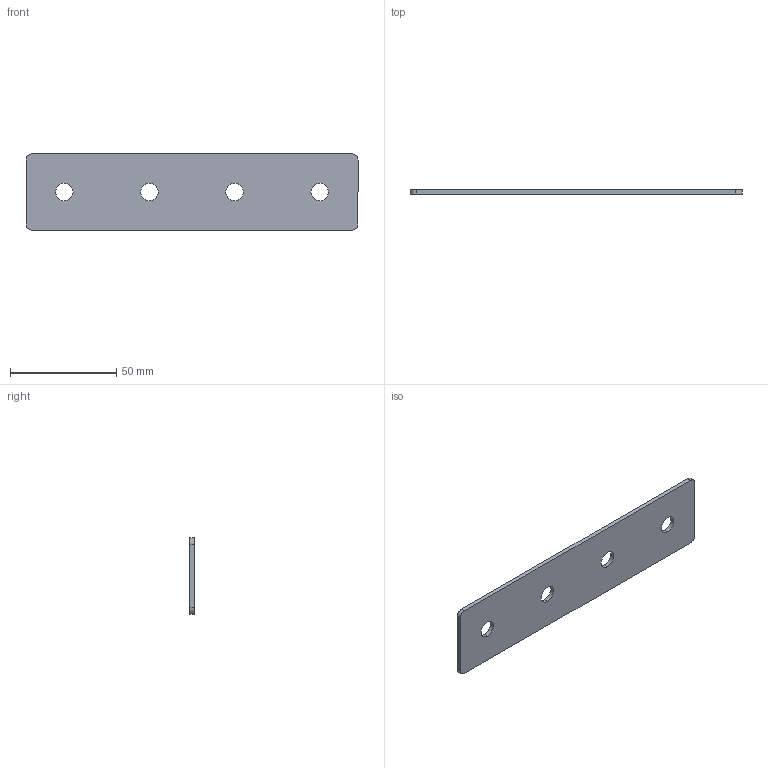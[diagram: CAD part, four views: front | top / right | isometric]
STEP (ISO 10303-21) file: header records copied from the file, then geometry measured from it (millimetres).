
FILE_DESCRIPTION (( 'STEP AP203' ), '1' );
FILE_NAME ('ﾏ-4-40.STEP', '2016-07-23T14:50:35', ( '' ), ( '' ), 'SwSTEP 2.0', 'SolidWorks 2014', '' );
FILE_SCHEMA (( 'CONFIG_CONTROL_DESIGN' ));
Length unit declared in the file: millimetre
Products named in the file (1): ﾏ-4-40
Bounding box: 156 x 2 x 36 mm (x, y, z)
Volume: 10794.3 mm3; surface area: 11758.1 mm2
Topology: 1 solids, 1 shells, 18 faces, 48 edges, 32 vertices
Faces by surface type: cylinder 12, plane 6
Entity records: 669 total; most frequent: DIRECTION 110, CARTESIAN_POINT 99, ORIENTED_EDGE 96, EDGE_CURVE 48, AXIS2_PLACEMENT_3D 43, VERTEX_POINT 32, EDGE_LOOP 26, LINE 24
